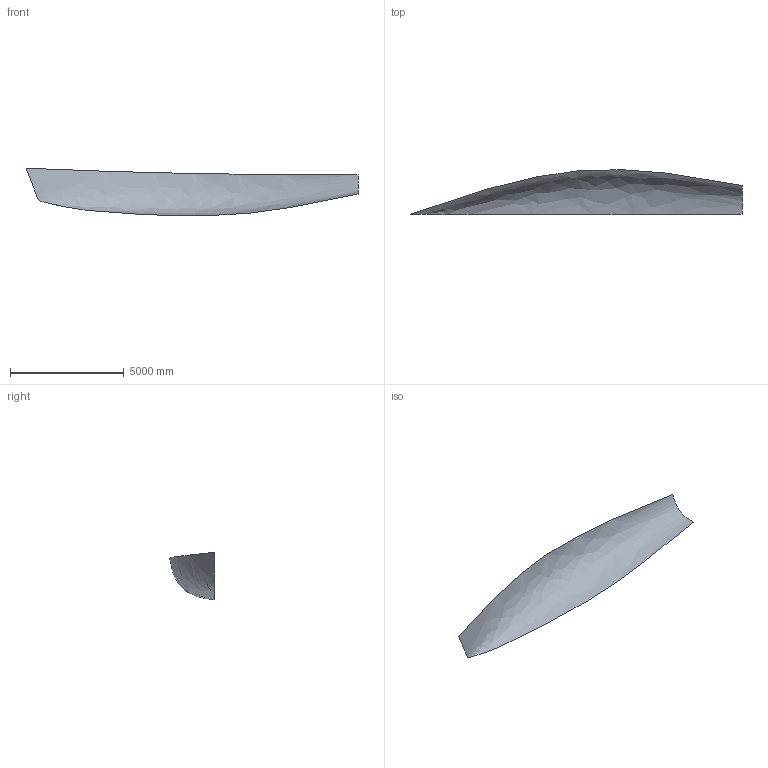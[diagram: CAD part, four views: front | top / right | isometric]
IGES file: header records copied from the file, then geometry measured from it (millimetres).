
Start section: DATA transfer to IGES file format           James R Teeters           17 Goodwin Street           Newport, RI 02840
Global section: file name: UssaM11.igs; author: Jim Teeters; organization: Newport RI; date: 951128.120000; units: metre
Bounding box: 14612.59 x 1959.81 x 2091.06 mm (x, y, z)
Surface area: 35430481.6 mm2 (no closed solid volume)
Topology: 0 solids, 0 shells, 1 faces, 4 edges, 4 vertices
Faces by surface type: bspline 1
